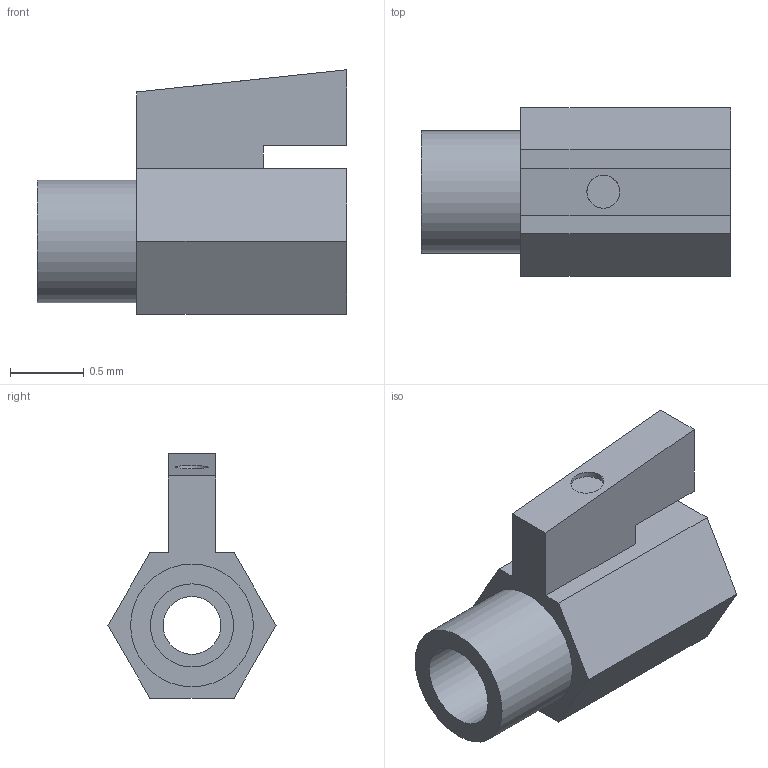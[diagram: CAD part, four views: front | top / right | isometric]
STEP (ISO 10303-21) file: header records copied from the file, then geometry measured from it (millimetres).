
FILE_DESCRIPTION(('Open CASCADE Model'),'2;1');
FILE_NAME('Open CASCADE Shape Model','2021-09-23T11:21:31',('Author'),( 'Open CASCADE'),'Open CASCADE STEP processor 7.3','Open CASCADE 7.3' ,'Unknown');
FILE_SCHEMA(('AUTOMOTIVE_DESIGN { 1 0 10303 214 1 1 1 1 }'));
Length unit declared in the file: millimetre
Products named in the file (1): Open CASCADE STEP translator 7.3 1
Bounding box: 2.09 x 1.14 x 1.65 mm (x, y, z)
Volume: 1.3 mm3; surface area: 13.7 mm2
Topology: 1 solids, 1 shells, 23 faces, 52 edges, 35 vertices
Faces by surface type: plane 18, cylinder 5
Full cylindrical faces by diameter (mm): 0.223 x1, 0.39 x1, 0.562 x1, 0.709 x1, 0.83 x1
Entity records: 1395 total; most frequent: CARTESIAN_POINT 310, DIRECTION 201, LINE 127, VECTOR 127, ORIENTED_EDGE 104, PCURVE 104, DEFINITIONAL_REPRESENTATION 104, EDGE_CURVE 52
